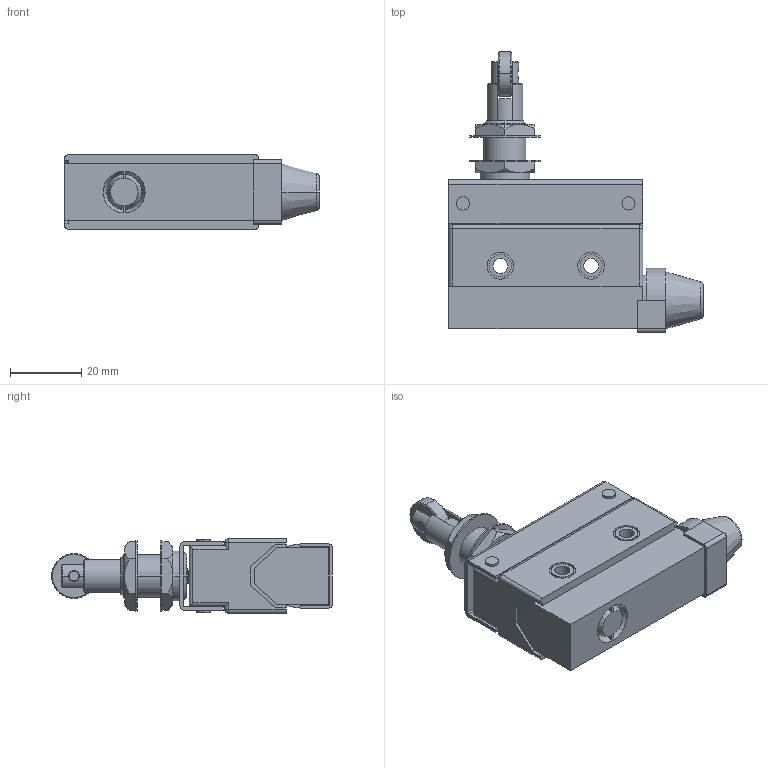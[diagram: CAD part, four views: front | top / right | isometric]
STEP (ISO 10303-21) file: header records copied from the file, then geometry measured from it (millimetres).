
FILE_DESCRIPTION (( 'STEP AP203' ), '1' );
FILE_NAME ('FM7312.STEP', '2018-06-20T16:20:30', ( '' ), ( '' ), 'SwSTEP 2.0', 'SolidWorks 2012', '' );
FILE_SCHEMA (( 'CONFIG_CONTROL_DESIGN' ));
Length unit declared in the file: millimetre
Products named in the file (1): FM7312
Bounding box: 71.5 x 78.9 x 21 mm (x, y, z)
Volume: 46546 mm3; surface area: 18627.9 mm2
Topology: 2 solids, 3 shells, 329 faces, 801 edges, 499 vertices
Faces by surface type: plane 136, cylinder 122, cone 38, torus 22, sphere 8, bspline 3
Entity records: 12576 total; most frequent: CARTESIAN_POINT 4704, DIRECTION 1685, ORIENTED_EDGE 1574, EDGE_CURVE 787, AXIS2_PLACEMENT_3D 647, VERTEX_POINT 499, VECTOR 391, LINE 391
